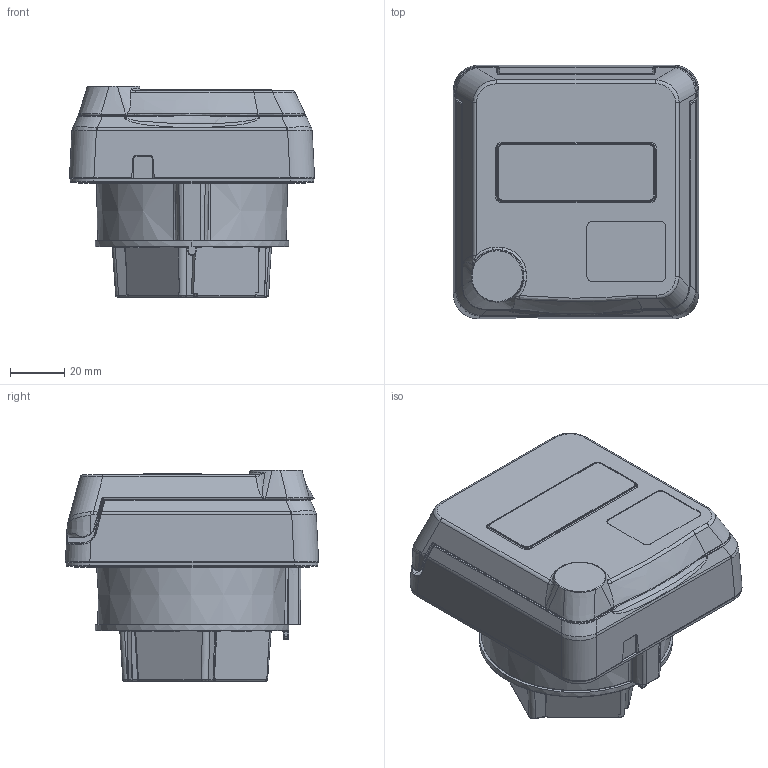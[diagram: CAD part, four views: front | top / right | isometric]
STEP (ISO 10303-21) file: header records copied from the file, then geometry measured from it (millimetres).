
FILE_DESCRIPTION((''),'2;1');
FILE_NAME('C00009053_SW0006','2026-04-01T07:09:53',('haas001'),('MENNEKES'),'CREO PARAMETRIC BY PTC INC, 2024153','CREO PARAMETRIC BY PTC INC, 2024153','');
FILE_SCHEMA(('AUTOMOTIVE_DESIGN { 1 0 10303 214 1 1 1 1 }'));
Length unit declared in the file: millimetre
Products named in the file (1): C00009053_SW0006
Bounding box: 89.97 x 92.97 x 77.7 mm (x, y, z)
Volume: 383675.2 mm3; surface area: 40053.4 mm2
Topology: 1 solids, 1 shells, 925 faces, 2300 edges, 1406 vertices
Faces by surface type: plane 288, cylinder 253, bspline 197, extrusion 100, torus 40, cone 33, sphere 14
Entity records: 51875 total; most frequent: CARTESIAN_POINT 17710, ORIENTED_EDGE 4596, DIRECTION 3498, PRESENTATION_STYLE_ASSIGNMENT 3324, STYLED_ITEM 2399, CURVE_STYLE 2398, EDGE_CURVE 2298, VERTEX_POINT 1406
